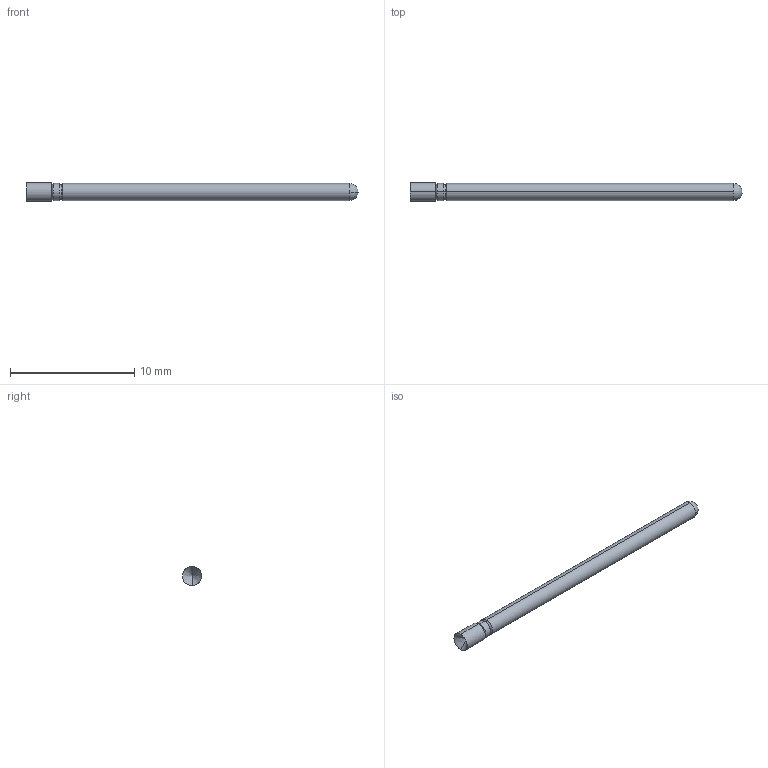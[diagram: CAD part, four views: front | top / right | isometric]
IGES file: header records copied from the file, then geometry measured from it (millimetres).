
Start section: SolidWorks IGES file using analytic representation for surfaces
Global section: file name: Z:\probe solid model mockups\Solidworks models\IGES Files\HCP-25 IGES files\HCP-25A Full.IGS; native system: SolidWorks 2006 by SolidWorks Corporation; preprocessor: SolidWorks 2006 by SolidWorks Corporation; author: tsakatani; date: 080102.152045; units: inch
Bounding box: 26.67 x 1.52 x 1.52 mm (x, y, z)
Surface area: 119.8 mm2 (no closed solid volume)
Topology: 0 solids, 0 shells, 20 faces, 124 edges, 122 vertices
Faces by surface type: revolution 14, bspline 6
